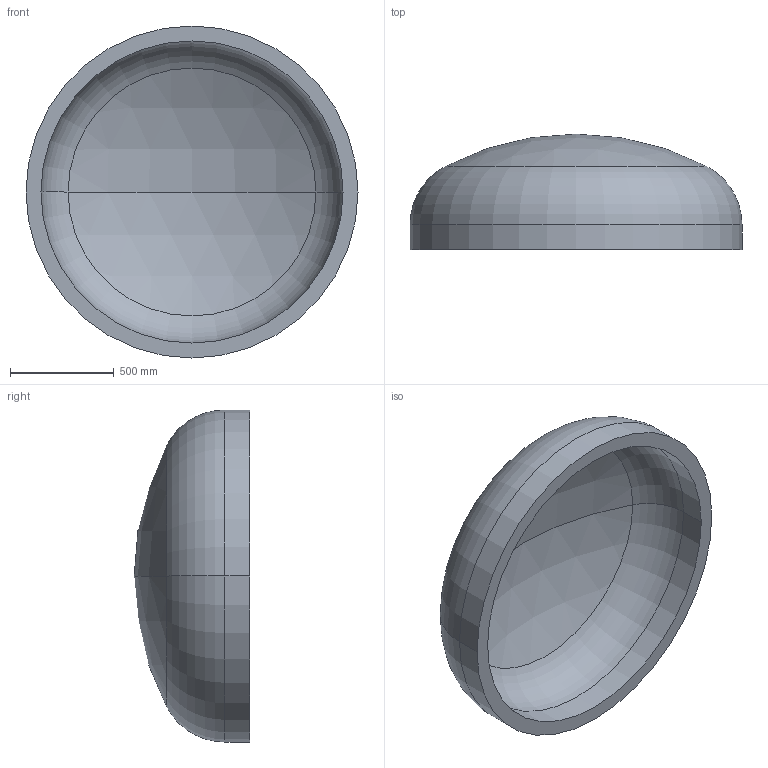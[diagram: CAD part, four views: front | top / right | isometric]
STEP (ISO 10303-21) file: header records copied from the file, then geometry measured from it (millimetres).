
FILE_DESCRIPTION (( 'STEP AP203' ), '1' );
FILE_NAME ('DIN 28013 Korbbogenform_-_Boden DIN 28013 - 1600 x 120 - I - s=72.step', '2016-07-01T11:24:04', ( '' ), ( '' ), 'SwSTEP 2.0', 'SolidWorks 2013', '' );
FILE_SCHEMA (( 'CONFIG_CONTROL_DESIGN' ));
Length unit declared in the file: millimetre
Products named in the file (1): DIN 28013 Korbbogenform_-_Boden DIN 28013 - 1600 x 120 - I - s=72
Bounding box: 1600 x 556.61 x 1600 mm (x, y, z)
Volume: 230442475.4 mm3; surface area: 6757661 mm2
Topology: 1 solids, 1 shells, 13 faces, 24 edges, 14 vertices
Faces by surface type: torus 4, cylinder 4, sphere 4, plane 1
Entity records: 407 total; most frequent: DIRECTION 72, CARTESIAN_POINT 52, ORIENTED_EDGE 48, AXIS2_PLACEMENT_3D 34, EDGE_CURVE 24, CIRCLE 20, VERTEX_POINT 14, EDGE_LOOP 14
